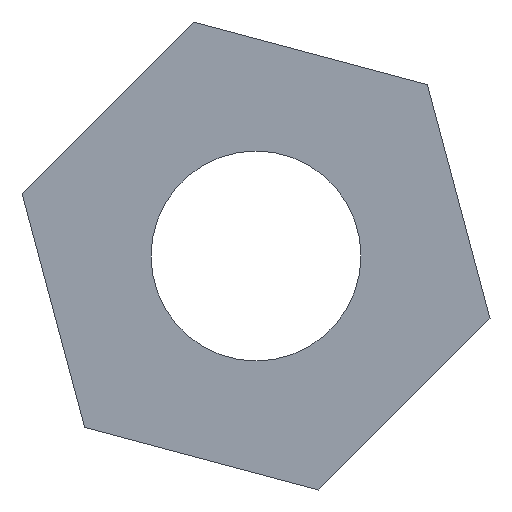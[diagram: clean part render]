
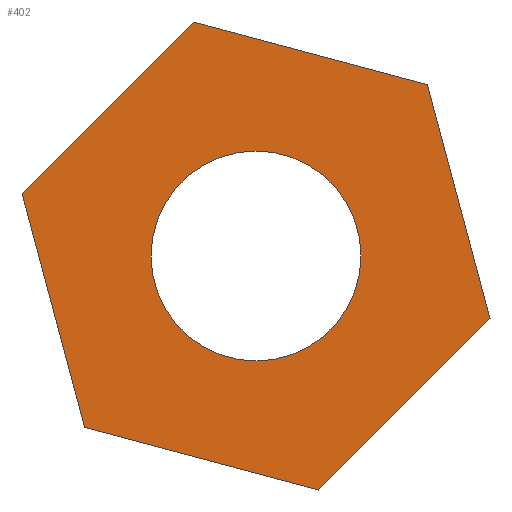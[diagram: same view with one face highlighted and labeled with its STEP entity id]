
A CAD part, left-side view. The second image highlights one B-rep face of the part: STEP entity #402.
In plain terms, the highlighted planar face has unit normal (-1, 0, 0).
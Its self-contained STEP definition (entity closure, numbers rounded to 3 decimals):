
#24 = VERTEX_POINT('',#25);
#25 = CARTESIAN_POINT('',(-8.,2.788,0.747));
#32 = PLANE('',#33);
#33 = AXIS2_PLACEMENT_3D('',#34,#35,#36);
#34 = CARTESIAN_POINT('',(-6.,2.788,0.747));
#35 = DIRECTION('',(0.,0.707,0.707));
#36 = DIRECTION('',(0.,-0.707,0.707));
#44 = PLANE('',#45);
#45 = AXIS2_PLACEMENT_3D('',#46,#47,#48);
#46 = CARTESIAN_POINT('',(-6.,2.041,-2.041));
#47 = DIRECTION('',(0.,0.966,-0.259));
#48 = DIRECTION('',(0.,0.259,0.966));
#56 = EDGE_CURVE('',#24,#57,#59,.T.);
#57 = VERTEX_POINT('',#58);
#58 = CARTESIAN_POINT('',(-8.,0.747,2.788));
#59 = SURFACE_CURVE('',#60,(#64,#71),.PCURVE_S1.);
#60 = LINE('',#61,#62);
#61 = CARTESIAN_POINT('',(-8.,2.788,0.747));
#62 = VECTOR('',#63,1.);
#63 = DIRECTION('',(0.,-0.707,0.707));
#64 = PCURVE('',#32,#65);
#65 = DEFINITIONAL_REPRESENTATION('',(#66),#70);
#66 = LINE('',#67,#68);
#67 = CARTESIAN_POINT('',(0.,-2.));
#68 = VECTOR('',#69,1.);
#69 = DIRECTION('',(1.,0.));
#70 = ( GEOMETRIC_REPRESENTATION_CONTEXT(2) 
PARAMETRIC_REPRESENTATION_CONTEXT() REPRESENTATION_CONTEXT('2D SPACE',''
  ) );
#71 = PCURVE('',#72,#77);
#72 = PLANE('',#73);
#73 = AXIS2_PLACEMENT_3D('',#74,#75,#76);
#74 = CARTESIAN_POINT('',(-8.,0.,0.));
#75 = DIRECTION('',(1.,0.,0.));
#76 = DIRECTION('',(-0.,0.,1.));
#77 = DEFINITIONAL_REPRESENTATION('',(#78),#82);
#78 = LINE('',#79,#80);
#79 = CARTESIAN_POINT('',(0.747,-2.788));
#80 = VECTOR('',#81,1.);
#81 = DIRECTION('',(0.707,0.707));
#82 = ( GEOMETRIC_REPRESENTATION_CONTEXT(2) 
PARAMETRIC_REPRESENTATION_CONTEXT() REPRESENTATION_CONTEXT('2D SPACE',''
  ) );
#100 = PLANE('',#101);
#101 = AXIS2_PLACEMENT_3D('',#102,#103,#104);
#102 = CARTESIAN_POINT('',(-6.,0.747,2.788));
#103 = DIRECTION('',(0.,-0.259,0.966));
#104 = DIRECTION('',(0.,-0.966,-0.259));
#144 = VERTEX_POINT('',#145);
#145 = CARTESIAN_POINT('',(-8.,2.041,-2.041));
#159 = PLANE('',#160);
#160 = AXIS2_PLACEMENT_3D('',#161,#162,#163);
#161 = CARTESIAN_POINT('',(-6.,-0.747,-2.788));
#162 = DIRECTION('',(0.,0.259,-0.966));
#163 = DIRECTION('',(0.,0.966,0.259));
#171 = EDGE_CURVE('',#144,#24,#172,.T.);
#172 = SURFACE_CURVE('',#173,(#177,#184),.PCURVE_S1.);
#173 = LINE('',#174,#175);
#174 = CARTESIAN_POINT('',(-8.,2.041,-2.041));
#175 = VECTOR('',#176,1.);
#176 = DIRECTION('',(0.,0.259,0.966));
#177 = PCURVE('',#44,#178);
#178 = DEFINITIONAL_REPRESENTATION('',(#179),#183);
#179 = LINE('',#180,#181);
#180 = CARTESIAN_POINT('',(0.,-2.));
#181 = VECTOR('',#182,1.);
#182 = DIRECTION('',(1.,0.));
#183 = ( GEOMETRIC_REPRESENTATION_CONTEXT(2) 
PARAMETRIC_REPRESENTATION_CONTEXT() REPRESENTATION_CONTEXT('2D SPACE',''
  ) );
#184 = PCURVE('',#72,#185);
#185 = DEFINITIONAL_REPRESENTATION('',(#186),#190);
#186 = LINE('',#187,#188);
#187 = CARTESIAN_POINT('',(-2.041,-2.041));
#188 = VECTOR('',#189,1.);
#189 = DIRECTION('',(0.966,-0.259));
#190 = ( GEOMETRIC_REPRESENTATION_CONTEXT(2) 
PARAMETRIC_REPRESENTATION_CONTEXT() REPRESENTATION_CONTEXT('2D SPACE',''
  ) );
#218 = EDGE_CURVE('',#57,#219,#221,.T.);
#219 = VERTEX_POINT('',#220);
#220 = CARTESIAN_POINT('',(-8.,-2.041,2.041));
#221 = SURFACE_CURVE('',#222,(#226,#233),.PCURVE_S1.);
#222 = LINE('',#223,#224);
#223 = CARTESIAN_POINT('',(-8.,0.747,2.788));
#224 = VECTOR('',#225,1.);
#225 = DIRECTION('',(0.,-0.966,-0.259));
#226 = PCURVE('',#100,#227);
#227 = DEFINITIONAL_REPRESENTATION('',(#228),#232);
#228 = LINE('',#229,#230);
#229 = CARTESIAN_POINT('',(-0.,-2.));
#230 = VECTOR('',#231,1.);
#231 = DIRECTION('',(1.,0.));
#232 = ( GEOMETRIC_REPRESENTATION_CONTEXT(2) 
PARAMETRIC_REPRESENTATION_CONTEXT() REPRESENTATION_CONTEXT('2D SPACE',''
  ) );
#233 = PCURVE('',#72,#234);
#234 = DEFINITIONAL_REPRESENTATION('',(#235),#239);
#235 = LINE('',#236,#237);
#236 = CARTESIAN_POINT('',(2.788,-0.747));
#237 = VECTOR('',#238,1.);
#238 = DIRECTION('',(-0.259,0.966));
#239 = ( GEOMETRIC_REPRESENTATION_CONTEXT(2) 
PARAMETRIC_REPRESENTATION_CONTEXT() REPRESENTATION_CONTEXT('2D SPACE',''
  ) );
#257 = PLANE('',#258);
#258 = AXIS2_PLACEMENT_3D('',#259,#260,#261);
#259 = CARTESIAN_POINT('',(-6.,-2.041,2.041));
#260 = DIRECTION('',(0.,-0.966,0.259));
#261 = DIRECTION('',(0.,-0.259,-0.966));
#334 = PLANE('',#335);
#335 = AXIS2_PLACEMENT_3D('',#336,#337,#338);
#336 = CARTESIAN_POINT('',(-6.,-2.788,-0.747));
#337 = DIRECTION('',(-0.,-0.707,-0.707));
#338 = DIRECTION('',(0.,0.707,-0.707));
#391 = CYLINDRICAL_SURFACE('',#392,1.251);
#392 = AXIS2_PLACEMENT_3D('',#393,#394,#395);
#393 = CARTESIAN_POINT('',(-5.95,0.,0.));
#394 = DIRECTION('',(-1.,0.,0.));
#395 = DIRECTION('',(0.,0.,-1.));
#402 = ADVANCED_FACE('',(#403,#475),#72,.F.);
#403 = FACE_BOUND('',#404,.F.);
#404 = EDGE_LOOP('',(#405,#406,#407,#430,#453,#474));
#405 = ORIENTED_EDGE('',*,*,#56,.T.);
#406 = ORIENTED_EDGE('',*,*,#218,.T.);
#407 = ORIENTED_EDGE('',*,*,#408,.T.);
#408 = EDGE_CURVE('',#219,#409,#411,.T.);
#409 = VERTEX_POINT('',#410);
#410 = CARTESIAN_POINT('',(-8.,-2.788,-0.747));
#411 = SURFACE_CURVE('',#412,(#416,#423),.PCURVE_S1.);
#412 = LINE('',#413,#414);
#413 = CARTESIAN_POINT('',(-8.,-2.041,2.041));
#414 = VECTOR('',#415,1.);
#415 = DIRECTION('',(0.,-0.259,-0.966));
#416 = PCURVE('',#72,#417);
#417 = DEFINITIONAL_REPRESENTATION('',(#418),#422);
#418 = LINE('',#419,#420);
#419 = CARTESIAN_POINT('',(2.041,2.041));
#420 = VECTOR('',#421,1.);
#421 = DIRECTION('',(-0.966,0.259));
#422 = ( GEOMETRIC_REPRESENTATION_CONTEXT(2) 
PARAMETRIC_REPRESENTATION_CONTEXT() REPRESENTATION_CONTEXT('2D SPACE',''
  ) );
#423 = PCURVE('',#257,#424);
#424 = DEFINITIONAL_REPRESENTATION('',(#425),#429);
#425 = LINE('',#426,#427);
#426 = CARTESIAN_POINT('',(-0.,-2.));
#427 = VECTOR('',#428,1.);
#428 = DIRECTION('',(1.,0.));
#429 = ( GEOMETRIC_REPRESENTATION_CONTEXT(2) 
PARAMETRIC_REPRESENTATION_CONTEXT() REPRESENTATION_CONTEXT('2D SPACE',''
  ) );
#430 = ORIENTED_EDGE('',*,*,#431,.T.);
#431 = EDGE_CURVE('',#409,#432,#434,.T.);
#432 = VERTEX_POINT('',#433);
#433 = CARTESIAN_POINT('',(-8.,-0.747,-2.788));
#434 = SURFACE_CURVE('',#435,(#439,#446),.PCURVE_S1.);
#435 = LINE('',#436,#437);
#436 = CARTESIAN_POINT('',(-8.,-2.788,-0.747));
#437 = VECTOR('',#438,1.);
#438 = DIRECTION('',(0.,0.707,-0.707));
#439 = PCURVE('',#72,#440);
#440 = DEFINITIONAL_REPRESENTATION('',(#441),#445);
#441 = LINE('',#442,#443);
#442 = CARTESIAN_POINT('',(-0.747,2.788));
#443 = VECTOR('',#444,1.);
#444 = DIRECTION('',(-0.707,-0.707));
#445 = ( GEOMETRIC_REPRESENTATION_CONTEXT(2) 
PARAMETRIC_REPRESENTATION_CONTEXT() REPRESENTATION_CONTEXT('2D SPACE',''
  ) );
#446 = PCURVE('',#334,#447);
#447 = DEFINITIONAL_REPRESENTATION('',(#448),#452);
#448 = LINE('',#449,#450);
#449 = CARTESIAN_POINT('',(0.,-2.));
#450 = VECTOR('',#451,1.);
#451 = DIRECTION('',(1.,0.));
#452 = ( GEOMETRIC_REPRESENTATION_CONTEXT(2) 
PARAMETRIC_REPRESENTATION_CONTEXT() REPRESENTATION_CONTEXT('2D SPACE',''
  ) );
#453 = ORIENTED_EDGE('',*,*,#454,.T.);
#454 = EDGE_CURVE('',#432,#144,#455,.T.);
#455 = SURFACE_CURVE('',#456,(#460,#467),.PCURVE_S1.);
#456 = LINE('',#457,#458);
#457 = CARTESIAN_POINT('',(-8.,-0.747,-2.788));
#458 = VECTOR('',#459,1.);
#459 = DIRECTION('',(0.,0.966,0.259));
#460 = PCURVE('',#72,#461);
#461 = DEFINITIONAL_REPRESENTATION('',(#462),#466);
#462 = LINE('',#463,#464);
#463 = CARTESIAN_POINT('',(-2.788,0.747));
#464 = VECTOR('',#465,1.);
#465 = DIRECTION('',(0.259,-0.966));
#466 = ( GEOMETRIC_REPRESENTATION_CONTEXT(2) 
PARAMETRIC_REPRESENTATION_CONTEXT() REPRESENTATION_CONTEXT('2D SPACE',''
  ) );
#467 = PCURVE('',#159,#468);
#468 = DEFINITIONAL_REPRESENTATION('',(#469),#473);
#469 = LINE('',#470,#471);
#470 = CARTESIAN_POINT('',(0.,-2.));
#471 = VECTOR('',#472,1.);
#472 = DIRECTION('',(1.,0.));
#473 = ( GEOMETRIC_REPRESENTATION_CONTEXT(2) 
PARAMETRIC_REPRESENTATION_CONTEXT() REPRESENTATION_CONTEXT('2D SPACE',''
  ) );
#474 = ORIENTED_EDGE('',*,*,#171,.T.);
#475 = FACE_BOUND('',#476,.F.);
#476 = EDGE_LOOP('',(#477));
#477 = ORIENTED_EDGE('',*,*,#478,.T.);
#478 = EDGE_CURVE('',#479,#479,#481,.T.);
#479 = VERTEX_POINT('',#480);
#480 = CARTESIAN_POINT('',(-8.,0.,-1.251));
#481 = SURFACE_CURVE('',#482,(#487,#498),.PCURVE_S1.);
#482 = CIRCLE('',#483,1.251);
#483 = AXIS2_PLACEMENT_3D('',#484,#485,#486);
#484 = CARTESIAN_POINT('',(-8.,0.,0.));
#485 = DIRECTION('',(-1.,0.,0.));
#486 = DIRECTION('',(0.,0.,-1.));
#487 = PCURVE('',#72,#488);
#488 = DEFINITIONAL_REPRESENTATION('',(#489),#497);
#489 = ( BOUNDED_CURVE() B_SPLINE_CURVE(2,(#490,#491,#492,#493,#494,#495
,#496),.UNSPECIFIED.,.T.,.F.) B_SPLINE_CURVE_WITH_KNOTS((1,2,2,2,2,1),(
    -2.094,0.,2.094,4.189,6.283,
8.378),.UNSPECIFIED.) CURVE() GEOMETRIC_REPRESENTATION_ITEM() 
RATIONAL_B_SPLINE_CURVE((1.,0.5,1.,0.5,1.,0.5,1.)) REPRESENTATION_ITEM(
  '') );
#490 = CARTESIAN_POINT('',(-1.251,0.));
#491 = CARTESIAN_POINT('',(-1.251,2.167));
#492 = CARTESIAN_POINT('',(0.626,1.083));
#493 = CARTESIAN_POINT('',(2.502,0.));
#494 = CARTESIAN_POINT('',(0.626,-1.083));
#495 = CARTESIAN_POINT('',(-1.251,-2.167));
#496 = CARTESIAN_POINT('',(-1.251,0.));
#497 = ( GEOMETRIC_REPRESENTATION_CONTEXT(2) 
PARAMETRIC_REPRESENTATION_CONTEXT() REPRESENTATION_CONTEXT('2D SPACE',''
  ) );
#498 = PCURVE('',#391,#499);
#499 = DEFINITIONAL_REPRESENTATION('',(#500),#504);
#500 = LINE('',#501,#502);
#501 = CARTESIAN_POINT('',(0.,2.05));
#502 = VECTOR('',#503,1.);
#503 = DIRECTION('',(1.,0.));
#504 = ( GEOMETRIC_REPRESENTATION_CONTEXT(2) 
PARAMETRIC_REPRESENTATION_CONTEXT() REPRESENTATION_CONTEXT('2D SPACE',''
  ) );
